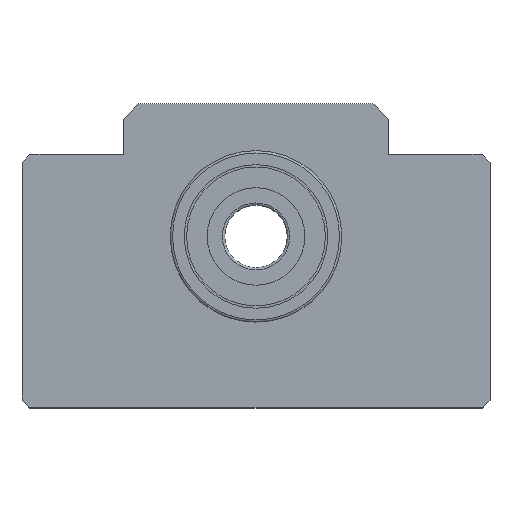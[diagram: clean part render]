
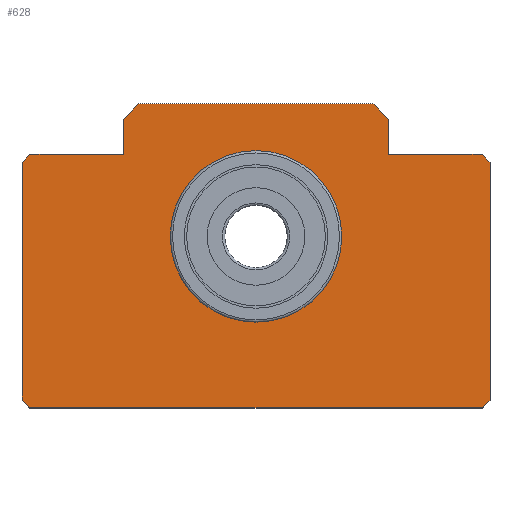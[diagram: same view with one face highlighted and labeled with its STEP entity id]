
A CAD part, top view. The second image highlights one B-rep face of the part: STEP entity #628.
In plain terms, the highlighted planar face has unit normal (0, 0, 1).
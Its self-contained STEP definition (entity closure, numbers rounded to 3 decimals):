
#52=CIRCLE('',#703,11.);
#152=ORIENTED_EDGE('',*,*,#268,.F.);
#153=ORIENTED_EDGE('',*,*,#221,.T.);
#154=ORIENTED_EDGE('',*,*,#225,.T.);
#155=ORIENTED_EDGE('',*,*,#230,.T.);
#156=ORIENTED_EDGE('',*,*,#233,.T.);
#157=ORIENTED_EDGE('',*,*,#236,.T.);
#158=ORIENTED_EDGE('',*,*,#239,.T.);
#159=ORIENTED_EDGE('',*,*,#243,.T.);
#160=ORIENTED_EDGE('',*,*,#246,.T.);
#161=ORIENTED_EDGE('',*,*,#249,.T.);
#162=ORIENTED_EDGE('',*,*,#252,.T.);
#163=ORIENTED_EDGE('',*,*,#255,.T.);
#164=ORIENTED_EDGE('',*,*,#258,.T.);
#165=ORIENTED_EDGE('',*,*,#262,.T.);
#166=ORIENTED_EDGE('',*,*,#265,.T.);
#221=EDGE_CURVE('',#293,#294,#351,.T.);
#225=EDGE_CURVE('',#294,#297,#355,.T.);
#230=EDGE_CURVE('',#297,#301,#358,.T.);
#233=EDGE_CURVE('',#301,#303,#361,.T.);
#236=EDGE_CURVE('',#303,#305,#364,.T.);
#239=EDGE_CURVE('',#305,#307,#367,.T.);
#243=EDGE_CURVE('',#307,#310,#370,.T.);
#246=EDGE_CURVE('',#310,#312,#373,.T.);
#249=EDGE_CURVE('',#312,#314,#376,.T.);
#252=EDGE_CURVE('',#314,#316,#379,.T.);
#255=EDGE_CURVE('',#316,#318,#382,.T.);
#258=EDGE_CURVE('',#318,#320,#385,.T.);
#262=EDGE_CURVE('',#320,#323,#388,.T.);
#265=EDGE_CURVE('',#323,#293,#391,.T.);
#268=EDGE_CURVE('',#326,#326,#52,.T.);
#293=VERTEX_POINT('',#954);
#294=VERTEX_POINT('',#955);
#297=VERTEX_POINT('',#963);
#301=VERTEX_POINT('',#973);
#303=VERTEX_POINT('',#979);
#305=VERTEX_POINT('',#985);
#307=VERTEX_POINT('',#991);
#310=VERTEX_POINT('',#999);
#312=VERTEX_POINT('',#1005);
#314=VERTEX_POINT('',#1011);
#316=VERTEX_POINT('',#1017);
#318=VERTEX_POINT('',#1023);
#320=VERTEX_POINT('',#1029);
#323=VERTEX_POINT('',#1037);
#326=VERTEX_POINT('',#1049);
#351=LINE('',#953,#393);
#355=LINE('',#962,#397);
#358=LINE('',#972,#400);
#361=LINE('',#978,#403);
#364=LINE('',#984,#406);
#367=LINE('',#990,#409);
#370=LINE('',#998,#412);
#373=LINE('',#1004,#415);
#376=LINE('',#1010,#418);
#379=LINE('',#1016,#421);
#382=LINE('',#1022,#424);
#385=LINE('',#1028,#427);
#388=LINE('',#1036,#430);
#391=LINE('',#1042,#433);
#393=VECTOR('',#761,1000.);
#397=VECTOR('',#767,1000.);
#400=VECTOR('',#776,1000.);
#403=VECTOR('',#781,1000.);
#406=VECTOR('',#786,1000.);
#409=VECTOR('',#791,1000.);
#412=VECTOR('',#798,1000.);
#415=VECTOR('',#803,1000.);
#418=VECTOR('',#808,1000.);
#421=VECTOR('',#813,1000.);
#424=VECTOR('',#818,1000.);
#427=VECTOR('',#823,1000.);
#430=VECTOR('',#830,1000.);
#433=VECTOR('',#835,1000.);
#455=EDGE_LOOP('',(#152));
#456=EDGE_LOOP('',(#153,#154,#155,#156,#157,#158,#159,#160,#161,#162,#163,
#164,#165,#166));
#531=FACE_BOUND('',#455,.T.);
#532=FACE_BOUND('',#456,.T.);
#602=PLANE('',#702);
#628=ADVANCED_FACE('',(#531,#532),#602,.T.);
#702=AXIS2_PLACEMENT_3D('',#1047,#841,#842);
#703=AXIS2_PLACEMENT_3D('',#1048,#843,#844);
#761=DIRECTION('',(0.,-1.,0.));
#767=DIRECTION('',(0.707,-0.707,0.));
#776=DIRECTION('',(1.,0.,0.));
#781=DIRECTION('',(0.707,0.707,0.));
#786=DIRECTION('',(0.,1.,0.));
#791=DIRECTION('',(-0.707,0.707,0.));
#798=DIRECTION('',(-1.,0.,0.));
#803=DIRECTION('',(0.,1.,0.));
#808=DIRECTION('',(-0.707,0.707,0.));
#813=DIRECTION('',(-1.,0.,0.));
#818=DIRECTION('',(-0.707,-0.707,0.));
#823=DIRECTION('',(0.,-1.,0.));
#830=DIRECTION('',(-1.,0.,0.));
#835=DIRECTION('',(-0.707,-0.707,0.));
#841=DIRECTION('',(0.,0.,1.));
#842=DIRECTION('',(1.,0.,0.));
#843=DIRECTION('',(0.,0.,1.));
#844=DIRECTION('',(1.,0.,0.));
#953=CARTESIAN_POINT('',(-30.,9.48,0.));
#954=CARTESIAN_POINT('',(-30.,9.48,0.));
#955=CARTESIAN_POINT('',(-30.,-20.98,0.));
#962=CARTESIAN_POINT('',(-30.,-20.98,0.));
#963=CARTESIAN_POINT('',(-28.98,-22.,0.));
#972=CARTESIAN_POINT('',(-28.98,-22.,0.));
#973=CARTESIAN_POINT('',(28.98,-22.,0.));
#978=CARTESIAN_POINT('',(28.98,-22.,0.));
#979=CARTESIAN_POINT('',(30.,-20.98,0.));
#984=CARTESIAN_POINT('',(30.,-20.98,0.));
#985=CARTESIAN_POINT('',(30.,9.48,0.));
#990=CARTESIAN_POINT('',(30.,9.48,0.));
#991=CARTESIAN_POINT('',(28.98,10.5,0.));
#998=CARTESIAN_POINT('',(28.98,10.5,0.));
#999=CARTESIAN_POINT('',(17.,10.5,0.));
#1004=CARTESIAN_POINT('',(17.,10.5,0.));
#1005=CARTESIAN_POINT('',(17.,15.,0.));
#1010=CARTESIAN_POINT('',(17.,15.,0.));
#1011=CARTESIAN_POINT('',(15.,17.,0.));
#1016=CARTESIAN_POINT('',(15.,17.,0.));
#1017=CARTESIAN_POINT('',(-15.,17.,0.));
#1022=CARTESIAN_POINT('',(-15.,17.,0.));
#1023=CARTESIAN_POINT('',(-17.,15.,0.));
#1028=CARTESIAN_POINT('',(-17.,15.,0.));
#1029=CARTESIAN_POINT('',(-17.,10.5,0.));
#1036=CARTESIAN_POINT('',(-17.,10.5,0.));
#1037=CARTESIAN_POINT('',(-28.98,10.5,0.));
#1042=CARTESIAN_POINT('',(-28.98,10.5,0.));
#1047=CARTESIAN_POINT('',(0.,0.,0.));
#1048=CARTESIAN_POINT('',(0.,0.,0.));
#1049=CARTESIAN_POINT('',(11.,0.,0.));
